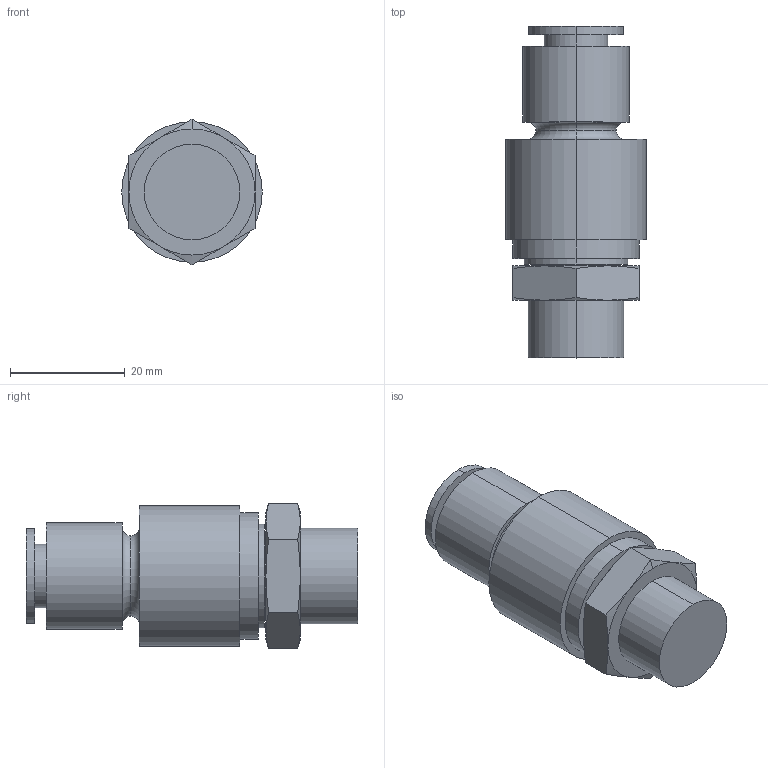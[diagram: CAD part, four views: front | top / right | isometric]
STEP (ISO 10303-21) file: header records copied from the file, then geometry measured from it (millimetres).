
FILE_DESCRIPTION (( 'STEP AP203' ), '1' );
FILE_NAME ('FKXH10-03.STEP', '2022-04-18T15:20:11', ( '' ), ( '' ), 'SwSTEP 2.0', 'SolidWorks 2019', '' );
FILE_SCHEMA (( 'CONFIG_CONTROL_DESIGN' ));
Length unit declared in the file: millimetre
Products named in the file (1): FKXH10-03
Bounding box: 24.5 x 57.9 x 25.4 mm (x, y, z)
Volume: 17420.7 mm3; surface area: 6314.2 mm2
Topology: 1 solids, 1 shells, 54 faces, 110 edges, 68 vertices
Faces by surface type: cylinder 18, plane 18, cone 14, torus 4
Entity records: 1823 total; most frequent: CARTESIAN_POINT 601, DIRECTION 256, ORIENTED_EDGE 220, AXIS2_PLACEMENT_3D 115, EDGE_CURVE 110, VERTEX_POINT 68, EDGE_LOOP 64, CIRCLE 60
